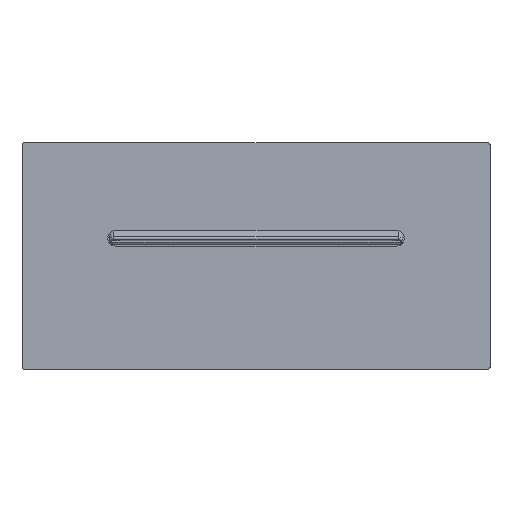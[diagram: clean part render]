
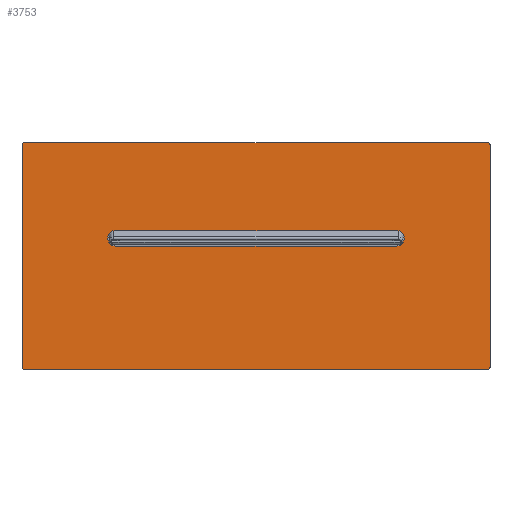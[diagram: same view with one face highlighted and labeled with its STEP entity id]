
A CAD part, left-side view. The second image highlights one B-rep face of the part: STEP entity #3753.
In plain terms, the highlighted planar face has unit normal (-1, 0, 0) as drawn and (0, 0, 1) by its records, which use the part's own axes.
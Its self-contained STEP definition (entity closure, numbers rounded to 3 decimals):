
#101=DIRECTION('',(0.,-1.,0.));
#102=VECTOR('',#101,298.);
#103=CARTESIAN_POINT('',(-72.5,149.,7.));
#104=LINE('',#103,#102);
#157=DIRECTION('',(-1.,0.,0.));
#158=VECTOR('',#157,143.);
#159=CARTESIAN_POINT('',(71.5,150.,7.));
#160=LINE('',#159,#158);
#169=DIRECTION('',(0.,1.,0.));
#170=VECTOR('',#169,298.);
#171=CARTESIAN_POINT('',(72.5,-149.,7.));
#172=LINE('',#171,#170);
#181=DIRECTION('',(1.,0.,0.));
#182=VECTOR('',#181,143.);
#183=CARTESIAN_POINT('',(-71.5,-150.,7.));
#184=LINE('',#183,#182);
#193=CARTESIAN_POINT('',(-71.5,-149.,7.));
#194=DIRECTION('',(0.,0.,-1.));
#195=DIRECTION('',(0.,-1.,0.));
#196=AXIS2_PLACEMENT_3D('',#193,#194,#195);
#198=CARTESIAN_POINT('',(-71.5,149.,7.));
#199=DIRECTION('',(0.,0.,-1.));
#200=DIRECTION('',(-1.,0.,0.));
#201=AXIS2_PLACEMENT_3D('',#198,#199,#200);
#203=CARTESIAN_POINT('',(71.5,149.,7.));
#204=DIRECTION('',(0.,0.,-1.));
#205=DIRECTION('',(0.,1.,0.));
#206=AXIS2_PLACEMENT_3D('',#203,#204,#205);
#208=CARTESIAN_POINT('',(71.5,-149.,7.));
#209=DIRECTION('',(0.,0.,-1.));
#210=DIRECTION('',(1.,0.,0.));
#211=AXIS2_PLACEMENT_3D('',#208,#209,#210);
#213=CARTESIAN_POINT('',(11.34,-90.,7.));
#214=DIRECTION('',(0.,0.,1.));
#215=DIRECTION('',(-1.,0.,0.));
#216=AXIS2_PLACEMENT_3D('',#213,#214,#215);
#218=DIRECTION('',(0.,1.,0.));
#219=VECTOR('',#218,180.);
#220=CARTESIAN_POINT('',(16.34,-90.,7.));
#221=LINE('',#220,#219);
#222=CARTESIAN_POINT('',(11.34,90.,7.));
#223=DIRECTION('',(0.,0.,1.));
#224=DIRECTION('',(1.,0.,0.));
#225=AXIS2_PLACEMENT_3D('',#222,#223,#224);
#227=CARTESIAN_POINT('',(11.34,90.,7.));
#228=DIRECTION('',(0.,0.,1.));
#229=DIRECTION('',(0.,1.,0.));
#230=AXIS2_PLACEMENT_3D('',#227,#228,#229);
#232=DIRECTION('',(0.,-1.,0.));
#233=VECTOR('',#232,180.);
#234=CARTESIAN_POINT('',(6.34,90.,7.));
#235=LINE('',#234,#233);
#2719=CARTESIAN_POINT('',(-72.5,149.,7.));
#2720=VERTEX_POINT('',#2719);
#2721=CARTESIAN_POINT('',(-72.5,-149.,7.));
#2722=VERTEX_POINT('',#2721);
#2723=CARTESIAN_POINT('',(-71.5,150.,7.));
#2724=VERTEX_POINT('',#2723);
#2725=CARTESIAN_POINT('',(71.5,150.,7.));
#2726=VERTEX_POINT('',#2725);
#2727=CARTESIAN_POINT('',(72.5,149.,7.));
#2728=VERTEX_POINT('',#2727);
#2729=CARTESIAN_POINT('',(72.5,-149.,7.));
#2730=VERTEX_POINT('',#2729);
#2731=CARTESIAN_POINT('',(71.5,-150.,7.));
#2732=VERTEX_POINT('',#2731);
#2733=CARTESIAN_POINT('',(-71.5,-150.,7.));
#2734=VERTEX_POINT('',#2733);
#2735=CARTESIAN_POINT('',(6.34,-90.,7.));
#2736=CARTESIAN_POINT('',(16.34,-90.,7.));
#2737=VERTEX_POINT('',#2735);
#2738=VERTEX_POINT('',#2736);
#2739=CARTESIAN_POINT('',(16.34,90.,7.));
#2740=VERTEX_POINT('',#2739);
#2741=CARTESIAN_POINT('',(11.34,95.,7.));
#2742=VERTEX_POINT('',#2741);
#2743=CARTESIAN_POINT('',(6.34,90.,7.));
#2744=VERTEX_POINT('',#2743);
#3726=CARTESIAN_POINT('',(0.,0.,7.));
#3727=DIRECTION('',(0.,0.,1.));
#3728=DIRECTION('',(0.,-1.,0.));
#3729=AXIS2_PLACEMENT_3D('',#3726,#3727,#3728);
#3730=PLANE('',#3729);
#3731=ORIENTED_EDGE('',*,*,#3718,.T.);
#3732=ORIENTED_EDGE('',*,*,#3556,.F.);
#3733=ORIENTED_EDGE('',*,*,#3637,.T.);
#3734=ORIENTED_EDGE('',*,*,#3652,.F.);
#3735=ORIENTED_EDGE('',*,*,#3665,.T.);
#3736=ORIENTED_EDGE('',*,*,#3679,.F.);
#3737=ORIENTED_EDGE('',*,*,#3693,.T.);
#3738=ORIENTED_EDGE('',*,*,#3706,.F.);
#3739=EDGE_LOOP('',(#3731,#3732,#3733,#3734,#3735,#3736,#3737,#3738));
#3740=FACE_OUTER_BOUND('',#3739,.F.);
#3742=ORIENTED_EDGE('',*,*,#3741,.T.);
#3744=ORIENTED_EDGE('',*,*,#3743,.T.);
#3746=ORIENTED_EDGE('',*,*,#3745,.T.);
#3748=ORIENTED_EDGE('',*,*,#3747,.T.);
#3750=ORIENTED_EDGE('',*,*,#3749,.T.);
#3751=EDGE_LOOP('',(#3742,#3744,#3746,#3748,#3750));
#3752=FACE_BOUND('',#3751,.F.);
#3753=ADVANCED_FACE('',(#3740,#3752),#3730,.T.);
#197=CIRCLE('',#196,1.);
#202=CIRCLE('',#201,1.);
#207=CIRCLE('',#206,1.);
#212=CIRCLE('',#211,1.);
#217=CIRCLE('',#216,5.);
#226=CIRCLE('',#225,5.);
#231=CIRCLE('',#230,5.);
#3556=EDGE_CURVE('',#2720,#2722,#104,.T.);
#3637=EDGE_CURVE('',#2720,#2724,#202,.T.);
#3652=EDGE_CURVE('',#2726,#2724,#160,.T.);
#3665=EDGE_CURVE('',#2726,#2728,#207,.T.);
#3679=EDGE_CURVE('',#2730,#2728,#172,.T.);
#3693=EDGE_CURVE('',#2730,#2732,#212,.T.);
#3706=EDGE_CURVE('',#2734,#2732,#184,.T.);
#3718=EDGE_CURVE('',#2734,#2722,#197,.T.);
#3741=EDGE_CURVE('',#2737,#2738,#217,.T.);
#3743=EDGE_CURVE('',#2738,#2740,#221,.T.);
#3745=EDGE_CURVE('',#2740,#2742,#226,.T.);
#3747=EDGE_CURVE('',#2742,#2744,#231,.T.);
#3749=EDGE_CURVE('',#2744,#2737,#235,.T.);
